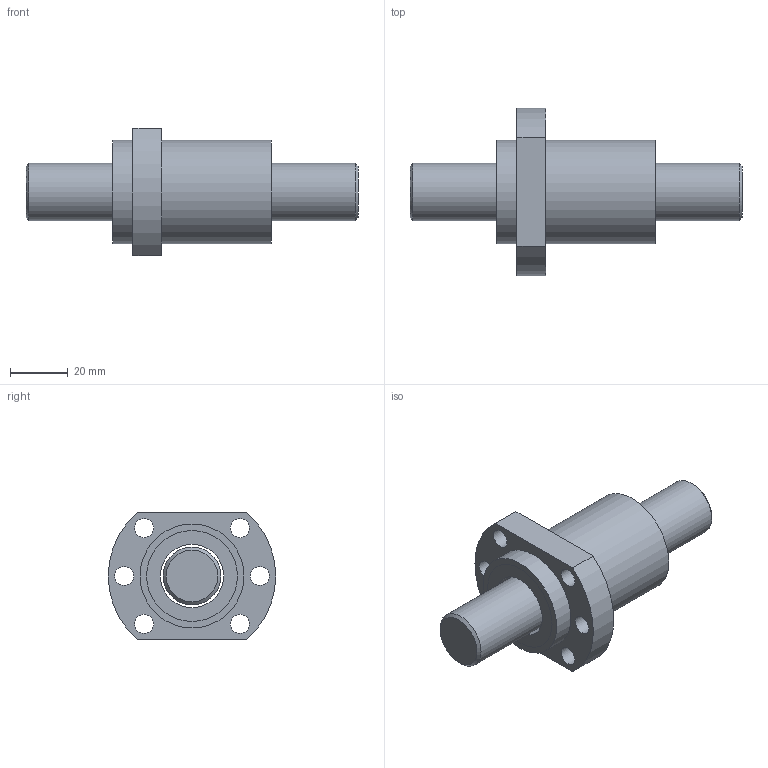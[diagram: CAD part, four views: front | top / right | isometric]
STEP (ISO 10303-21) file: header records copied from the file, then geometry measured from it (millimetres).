
FILE_DESCRIPTION(/* description */ (''),/* implementation_level */ '2;1');
FILE_NAME(/* name */ 'SFH2010-3.8.stp',/* time_stamp */ '2014-10-15T13:09:12+08:00',/* author */ (''),/* organization */ (''),/* preprocessor_version */ 'ST-DEVELOPER v11',/* originating_system */ 'SIEMENS UGS NX 6.0',/* authorisation */ '');
FILE_SCHEMA (('CONFIG_CONTROL_DESIGN'));
Length unit declared in the file: millimetre
Products named in the file (1): fannB1F9gmcz
Bounding box: 115 x 58 x 44 mm (x, y, z)
Volume: 81710.8 mm3; surface area: 27956.4 mm2
Topology: 4 solids, 4 shells, 50 faces, 90 edges, 60 vertices
Faces by surface type: cylinder 26, plane 22, cone 2
Full cylindrical faces by diameter (mm): 6.6 x6, 20 x1, 22 x3, 28 x4, 31.5 x4, 33 x4, 36 x2
Entity records: 1216 total; most frequent: DIRECTION 218, CARTESIAN_POINT 171, ORIENTED_EDGE 124, EDGE_LOOP 106, AXIS2_PLACEMENT_3D 105, FACE_BOUND 100, EDGE_CURVE 62, VERTEX_POINT 58
